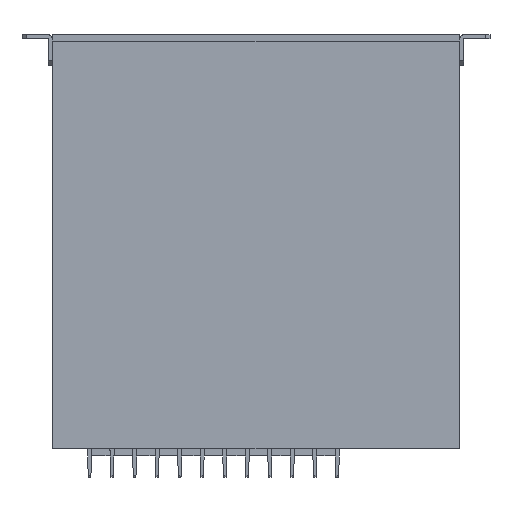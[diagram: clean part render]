
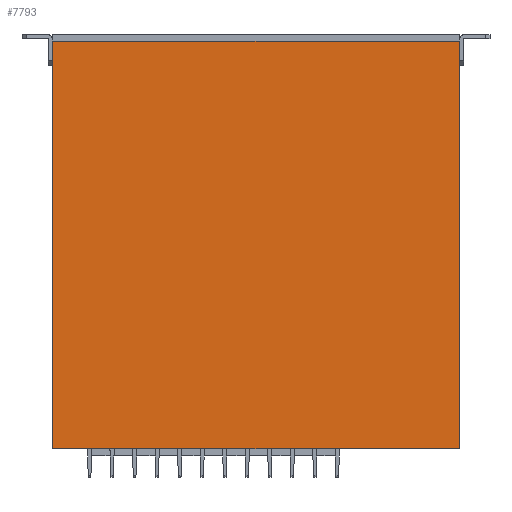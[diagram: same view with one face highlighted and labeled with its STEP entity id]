
A CAD part, front view. The second image highlights one B-rep face of the part: STEP entity #7793.
In plain terms, the highlighted planar face has unit normal (0, -1, 0).
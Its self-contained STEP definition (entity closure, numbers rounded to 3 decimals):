
#1151 = ORIENTED_EDGE ( 'NONE', *, *, #8310, .F. ) ;
#1271 = LINE ( 'NONE', #5870, #7703 ) ;
#1389 = CARTESIAN_POINT ( 'NONE',  ( -35.875, -144.313, -238.295 ) ) ;
#1499 = VERTEX_POINT ( 'NONE', #5804 ) ;
#1506 = DIRECTION ( 'NONE',  ( 0., 0., 1. ) ) ;
#1590 = ORIENTED_EDGE ( 'NONE', *, *, #7432, .T. ) ;
#1711 = ORIENTED_EDGE ( 'NONE', *, *, #6705, .T. ) ;
#1794 = DIRECTION ( 'NONE',  ( 0., 0., 1. ) ) ;
#1894 = CARTESIAN_POINT ( 'NONE',  ( 164.125, -144.313, -338.445 ) ) ;
#2683 = LINE ( 'NONE', #1894, #5962 ) ;
#2767 = VECTOR ( 'NONE', #1506, 1000. ) ;
#2989 = LINE ( 'NONE', #1389, #2767 ) ;
#3454 = EDGE_CURVE ( 'NONE', #7571, #5403, #3687, .T. ) ;
#3610 = EDGE_LOOP ( 'NONE', ( #1151, #1590, #1711, #4501 ) ) ;
#3687 = LINE ( 'NONE', #3988, #4857 ) ;
#3739 = CARTESIAN_POINT ( 'NONE',  ( 164.125, -144.313, -338.445 ) ) ;
#3988 = CARTESIAN_POINT ( 'NONE',  ( -35.875, -144.313, -138.145 ) ) ;
#4030 = DIRECTION ( 'NONE',  ( 0., 0., 1. ) ) ;
#4039 = DIRECTION ( 'NONE',  ( 0., -1., 0. ) ) ;
#4061 = PLANE ( 'NONE',  #4444 ) ;
#4071 = CARTESIAN_POINT ( 'NONE',  ( 164.125, -144.313, -338.445 ) ) ;
#4444 = AXIS2_PLACEMENT_3D ( 'NONE', #4071, #4039, #4030 ) ;
#4501 = ORIENTED_EDGE ( 'NONE', *, *, #3454, .T. ) ;
#4857 = VECTOR ( 'NONE', #8082, 1000. ) ;
#5173 = CARTESIAN_POINT ( 'NONE',  ( 164.125, -144.313, -138.145 ) ) ;
#5403 = VERTEX_POINT ( 'NONE', #7728 ) ;
#5804 = CARTESIAN_POINT ( 'NONE',  ( -35.875, -144.313, -338.445 ) ) ;
#5870 = CARTESIAN_POINT ( 'NONE',  ( -35.875, -144.313, -338.445 ) ) ;
#5962 = VECTOR ( 'NONE', #1794, 1000. ) ;
#6705 = EDGE_CURVE ( 'NONE', #7870, #7571, #2683, .T. ) ;
#7048 = DIRECTION ( 'NONE',  ( 1., 0., 0. ) ) ;
#7386 = FACE_OUTER_BOUND ( 'NONE', #3610, .T. ) ;
#7432 = EDGE_CURVE ( 'NONE', #1499, #7870, #1271, .T. ) ;
#7571 = VERTEX_POINT ( 'NONE', #5173 ) ;
#7703 = VECTOR ( 'NONE', #7048, 1000. ) ;
#7728 = CARTESIAN_POINT ( 'NONE',  ( -35.875, -144.313, -138.145 ) ) ;
#7793 = ADVANCED_FACE ( 'NONE', ( #7386 ), #4061, .T. ) ;
#7870 = VERTEX_POINT ( 'NONE', #3739 ) ;
#8082 = DIRECTION ( 'NONE',  ( -1., 0., 0. ) ) ;
#8310 = EDGE_CURVE ( 'NONE', #1499, #5403, #2989, .T. ) ;
